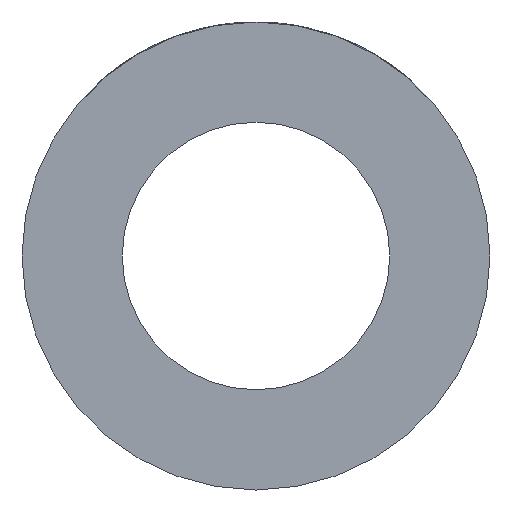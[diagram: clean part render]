
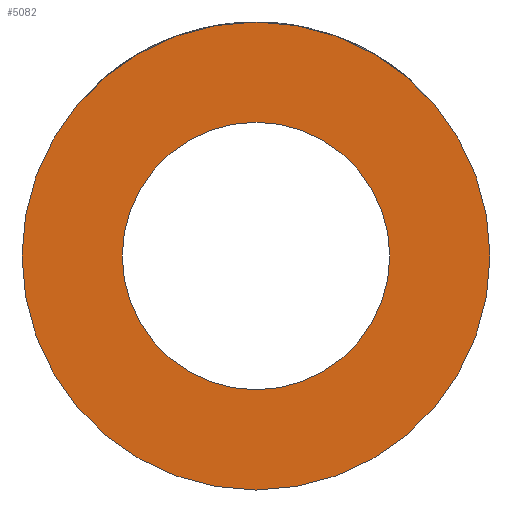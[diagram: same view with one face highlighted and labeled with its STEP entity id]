
A CAD part, left-side view. The second image highlights one B-rep face of the part: STEP entity #5082.
In plain terms, the highlighted planar face has unit normal (-1, 0, 0).
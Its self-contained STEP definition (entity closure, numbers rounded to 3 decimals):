
#113=PLANE('',#5477);
#540=CIRCLE('',#5476,10.5);
#541=CIRCLE('',#5478,6.);
#862=ORIENTED_EDGE('',*,*,#2398,.T.);
#863=ORIENTED_EDGE('',*,*,#2397,.F.);
#2397=EDGE_CURVE('',#3165,#3165,#540,.T.);
#2398=EDGE_CURVE('',#3166,#3166,#541,.T.);
#3165=VERTEX_POINT('',#8032);
#3166=VERTEX_POINT('',#8035);
#4337=EDGE_LOOP('',(#862));
#4338=EDGE_LOOP('',(#863));
#4704=FACE_BOUND('',#4337,.T.);
#4705=FACE_BOUND('',#4338,.T.);
#5082=ADVANCED_FACE('',(#4704,#4705),#113,.F.);
#5476=AXIS2_PLACEMENT_3D('',#8031,#6007,#6008);
#5477=AXIS2_PLACEMENT_3D('',#8033,#6009,#6010);
#5478=AXIS2_PLACEMENT_3D('',#8034,#6011,#6012);
#6007=DIRECTION('',(1.,0.,0.));
#6008=DIRECTION('',(0.,0.,-1.));
#6009=DIRECTION('',(1.,0.,0.));
#6010=DIRECTION('',(0.,0.,-1.));
#6011=DIRECTION('',(1.,0.,0.));
#6012=DIRECTION('',(0.,0.,-1.));
#8031=CARTESIAN_POINT('',(-28.5,0.,0.));
#8032=CARTESIAN_POINT('',(-28.5,0.,-10.5));
#8033=CARTESIAN_POINT('',(-28.5,0.,0.));
#8034=CARTESIAN_POINT('',(-28.5,0.,0.));
#8035=CARTESIAN_POINT('',(-28.5,0.,-6.));
